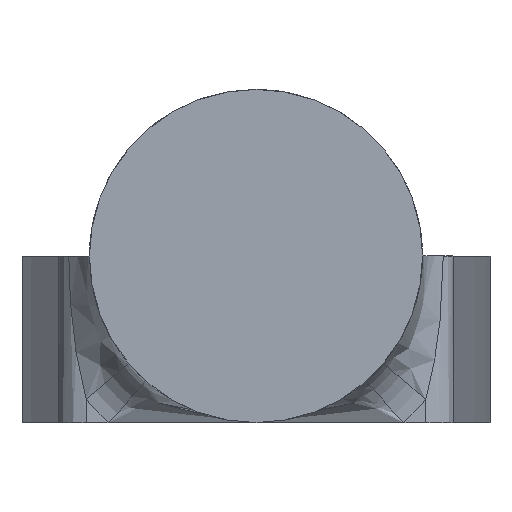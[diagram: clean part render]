
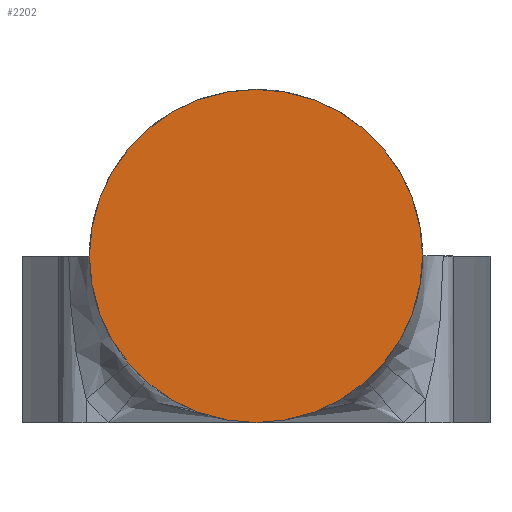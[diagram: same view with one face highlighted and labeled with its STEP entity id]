
A CAD part, front view. The second image highlights one B-rep face of the part: STEP entity #2202.
In plain terms, the highlighted planar face has unit normal (0, -1, 0).
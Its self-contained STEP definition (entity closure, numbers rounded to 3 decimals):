
#12 = CIRCLE ( 'NONE', #13, 3. ) ;
#13 = AXIS2_PLACEMENT_3D ( 'NONE', #14, #15, #16 ) ;
#14 = CARTESIAN_POINT ( 'NONE',  ( 0., -600., 0. ) ) ;
#15 = DIRECTION ( 'NONE',  ( 0., -1., 0. ) ) ;
#16 = DIRECTION ( 'NONE',  ( 0., 0., -1. ) ) ;
#151 = CARTESIAN_POINT ( 'NONE',  ( 0., -600., 3. ) ) ;
#663 = CIRCLE ( 'NONE', #664, 3. ) ;
#664 = AXIS2_PLACEMENT_3D ( 'NONE', #665, #666, #667 ) ;
#665 = CARTESIAN_POINT ( 'NONE',  ( 0., -600., 0. ) ) ;
#666 = DIRECTION ( 'NONE',  ( 0., -1., 0. ) ) ;
#667 = DIRECTION ( 'NONE',  ( 0., 0., -1. ) ) ;
#1438 = FACE_OUTER_BOUND ( 'NONE', #2193, .T. ) ;
#1439 = PLANE ( 'NONE',  #1440 ) ;
#1440 = AXIS2_PLACEMENT_3D ( 'NONE', #1441, #1442, #1443 ) ;
#1441 = CARTESIAN_POINT ( 'NONE',  ( 0., -600., 0. ) ) ;
#1442 = DIRECTION ( 'NONE',  ( 0., -1., 0. ) ) ;
#1443 = DIRECTION ( 'NONE',  ( 0., 0., -1. ) ) ;
#1600 = VERTEX_POINT ( 'NONE', #151 ) ;
#1611 = VERTEX_POINT ( 'NONE', #1726 ) ;
#1625 = EDGE_CURVE ( 'NONE', #1611, #1600, #12, .T. ) ;
#1726 = CARTESIAN_POINT ( 'NONE',  ( 0., -600., -3. ) ) ;
#2156 = EDGE_CURVE ( 'NONE', #1600, #1611, #663, .T. ) ;
#2162 = ORIENTED_EDGE ( 'NONE', *, *, #1625, .T. ) ;
#2175 = ORIENTED_EDGE ( 'NONE', *, *, #2156, .T. ) ;
#2193 = EDGE_LOOP ( 'NONE', ( #2175, #2162 ) ) ;
#2202 = ADVANCED_FACE ( 'NONE', ( #1438 ), #1439, .T. ) ;
